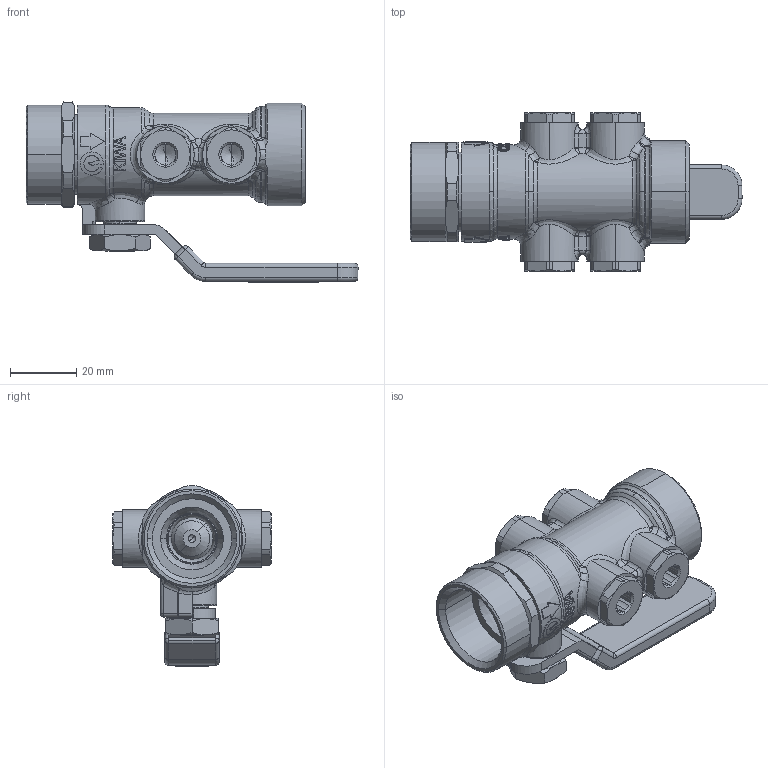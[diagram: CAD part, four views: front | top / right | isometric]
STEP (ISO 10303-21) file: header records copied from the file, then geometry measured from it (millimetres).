
FILE_DESCRIPTION (( 'STEP AP214' ), '1' );
FILE_NAME ('W228020243.STEP', '2018-09-17T07:07:19', ( '' ), ( '' ), 'SwSTEP 2.0', 'SolidWorks 2017', '' );
FILE_SCHEMA (( 'AUTOMOTIVE_DESIGN' ));
Length unit declared in the file: millimetre
Products named in the file (18): W022014070; 22012537_housing; W098015202; W098015209_W098015212_PerceeEnrobee; 9696; 22019272_Torpedo; 22019272_Membrane; W034020501_W034020513UsF3quar; 10088; W098020211_00A_P627 4 pour 20 et 25; W022020070_JT; 22019272_ogive; W149020618_closed; W228020243; W093003102_00A; W092020314; 22019272_ressort; W098015205
Assembly tree (24 placements, depth 3):
  W228020243
    W034020501_W034020513UsF3quar
    W098020211_00A_P627 4 pour 20 et 25
    W098015209_W098015212_PerceeEnrobee
    9696
    10088
    W092020314
    W098015202
    W098015205  x2
    W149020618_closed
      22019272_Torpedo
      22012537_housing
      22019272_Membrane
      22019272_ogive
      22019272_ressort
    W022020070_JT
    W093003102_00A  x4
    W022014070  x4
Bounding box: 100.6 x 48 x 54.62 mm (x, y, z)
Volume: 48840.1 mm3; surface area: 39903.6 mm2
Topology: 24 solids, 24 shells, 1207 faces, 2992 edges, 1835 vertices
Faces by surface type: plane 464, cylinder 288, cone 198, bspline 162, torus 83, sphere 12
Entity records: 42490 total; most frequent: CARTESIAN_POINT 18554, ORIENTED_EDGE 4996, DIRECTION 4499, EDGE_CURVE 2498, AXIS2_PLACEMENT_3D 1774, VERTEX_POINT 1547, EDGE_LOOP 1097, ADVANCED_FACE 1020
